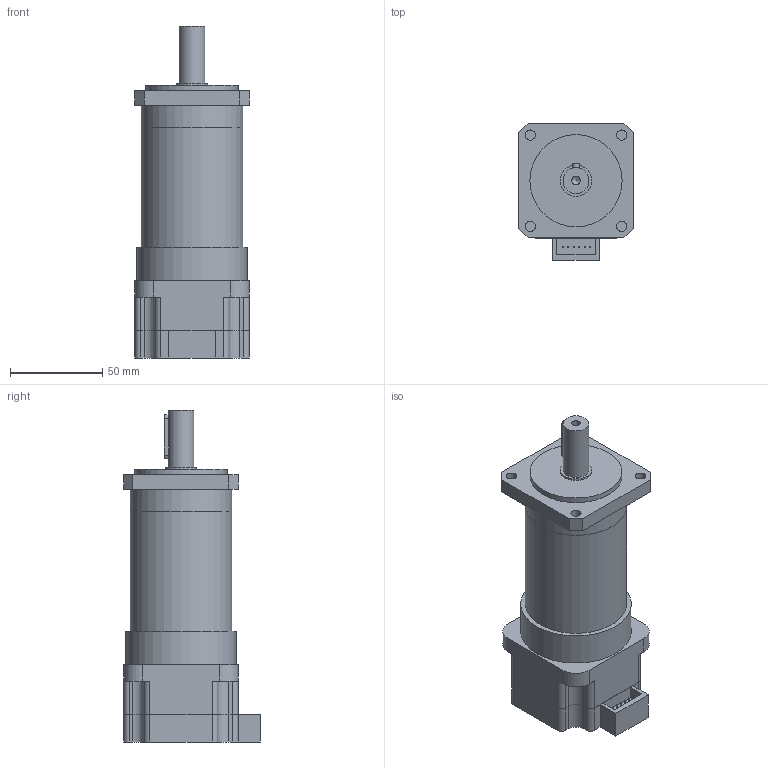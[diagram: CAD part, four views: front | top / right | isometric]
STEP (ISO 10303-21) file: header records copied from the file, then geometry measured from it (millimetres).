
FILE_DESCRIPTION(/* description */ (''),/* implementation_level */ '2;1');
FILE_NAME(/* name */ '62PG100-D42-0442.stp',/* time_stamp */ '2018-08-28T09:47:19+08:00',/* author */ (''),/* organization */ (''),/* preprocessor_version */ 'ST-DEVELOPER v11',/* originating_system */ 'SIEMENS UGS NX 6.0',/* authorisation */ '');
FILE_SCHEMA (('CONFIG_CONTROL_DESIGN'));
Length unit declared in the file: millimetre
Products named in the file (1): 62PG100-D42-0442
Bounding box: 62 x 74 x 180 mm (x, y, z)
Volume: 422699.6 mm3; surface area: 54012.4 mm2
Topology: 3 solids, 3 shells, 132 faces, 337 edges, 225 vertices
Faces by surface type: plane 90, cylinder 41, cone 1
Full cylindrical faces by diameter (mm): 4.5 x1, 5.5 x4, 14 x1, 17 x1, 50 x1, 55 x2, 60 x1
Entity records: 4060 total; most frequent: CARTESIAN_POINT 738, DIRECTION 666, ORIENTED_EDGE 644, EDGE_CURVE 322, LINE 240, VECTOR 240, VERTEX_POINT 223, AXIS2_PLACEMENT_3D 213
